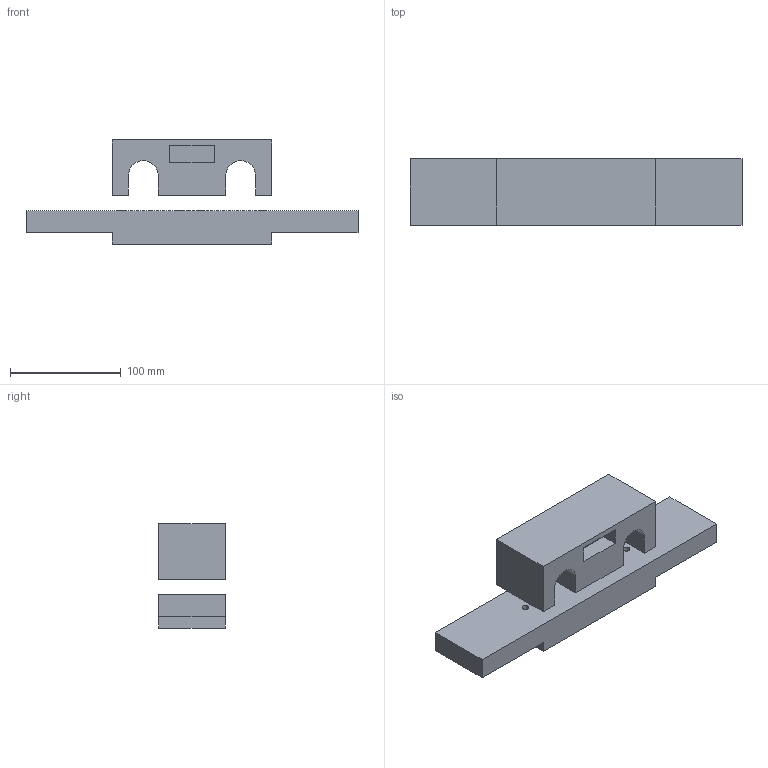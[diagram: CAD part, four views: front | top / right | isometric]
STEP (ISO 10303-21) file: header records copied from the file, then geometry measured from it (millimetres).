
FILE_DESCRIPTION(('STEP AP203'), '1');
FILE_NAME('栖闉罻', '', ('UNSPECIFIED'), ('UNSPECIFIED'), 'C3D Converter', 'C3D Toolkit', '');
FILE_SCHEMA(('CONFIG_CONTROL_DESIGN'));
Length unit declared in the file: millimetre
Assembly tree (2 placements, depth 2):
  (unnamed)
    (unnamed)
    (unnamed)
Bounding box: 300 x 60 x 94 mm (x, y, z)
Volume: 760093.9 mm3; surface area: 99983.6 mm2
Topology: 2 solids, 2 shells, 41 faces, 90 edges, 60 vertices
Faces by surface type: plane 33, cylinder 8
Full cylindrical faces by diameter (mm): 6.1 x2, 6.2 x2, 30.2 x2
Entity records: 1248 total; most frequent: CARTESIAN_POINT 188, DIRECTION 188, ORIENTED_EDGE 168, EDGE_CURVE 84, LINE 68, VECTOR 68, AXIS2_PLACEMENT_3D 60, VERTEX_POINT 60
